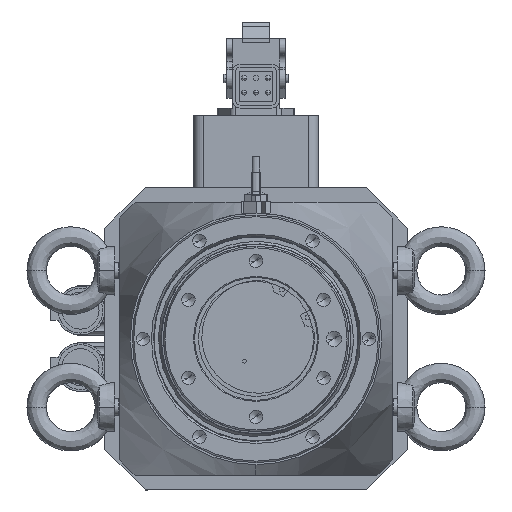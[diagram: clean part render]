
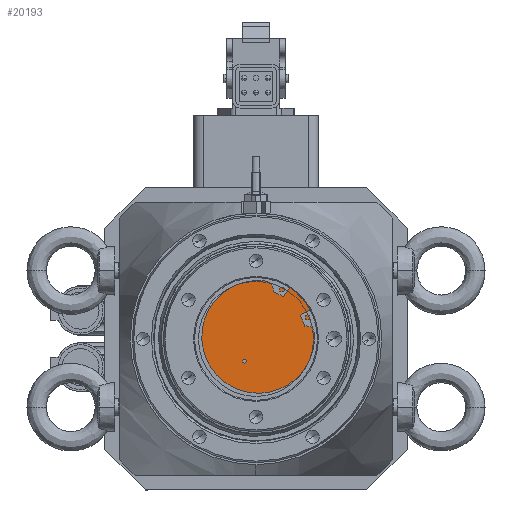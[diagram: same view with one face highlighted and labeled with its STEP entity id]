
A CAD part, front view. The second image highlights one B-rep face of the part: STEP entity #20193.
In plain terms, the highlighted planar face has unit normal (0, -1, 0).
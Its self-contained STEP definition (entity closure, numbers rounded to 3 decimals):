
#1101 = PLANE ( 'NONE',  #25578 ) ;
#2541 = CIRCLE ( 'NONE', #31256, 31.5 ) ;
#2802 = CARTESIAN_POINT ( 'NONE',  ( -70.273, -247.879, -75.425 ) ) ;
#3281 = ORIENTED_EDGE ( 'NONE', *, *, #39886, .F. ) ;
#3992 = CARTESIAN_POINT ( 'NONE',  ( -63.5, -247.879, -63.5 ) ) ;
#4532 = DIRECTION ( 'NONE',  ( 0.866, 0., 0.5 ) ) ;
#5123 = VERTEX_POINT ( 'NONE', #33120 ) ;
#6115 = VERTEX_POINT ( 'NONE', #29689 ) ;
#8212 = DIRECTION ( 'NONE',  ( 0., 1., 0. ) ) ;
#8728 = FACE_BOUND ( 'NONE', #11676, .T. ) ;
#9163 = EDGE_CURVE ( 'NONE', #6115, #13851, #11484, .T. ) ;
#9889 = CARTESIAN_POINT ( 'NONE',  ( -69.407, -247.879, -74.925 ) ) ;
#10842 = CIRCLE ( 'NONE', #16702, 1. ) ;
#11484 = CIRCLE ( 'NONE', #13871, 1. ) ;
#11676 = EDGE_LOOP ( 'NONE', ( #33970, #29968 ) ) ;
#13008 = DIRECTION ( 'NONE',  ( 0., 1., 0. ) ) ;
#13314 = VERTEX_POINT ( 'NONE', #34430 ) ;
#13670 = DIRECTION ( 'NONE',  ( 0., 1., 0. ) ) ;
#13851 = VERTEX_POINT ( 'NONE', #2802 ) ;
#13871 = AXIS2_PLACEMENT_3D ( 'NONE', #9889, #13008, #22728 ) ;
#13976 = EDGE_CURVE ( 'NONE', #13314, #5123, #34600, .T. ) ;
#14071 = DIRECTION ( 'NONE',  ( 0.866, 0., 0.5 ) ) ;
#14651 = CARTESIAN_POINT ( 'NONE',  ( -69.407, -247.879, -74.925 ) ) ;
#16276 = EDGE_CURVE ( 'NONE', #13851, #6115, #10842, .T. ) ;
#16702 = AXIS2_PLACEMENT_3D ( 'NONE', #14651, #36535, #36781 ) ;
#19598 = CARTESIAN_POINT ( 'NONE',  ( -63.5, -247.879, -63.5 ) ) ;
#20193 = ADVANCED_FACE ( 'NONE', ( #20324, #8728 ), #1101, .F. ) ;
#20324 = FACE_OUTER_BOUND ( 'NONE', #22481, .T. ) ;
#22481 = EDGE_LOOP ( 'NONE', ( #3281, #36797 ) ) ;
#22728 = DIRECTION ( 'NONE',  ( 0.866, 0., 0.5 ) ) ;
#25578 = AXIS2_PLACEMENT_3D ( 'NONE', #19598, #13670, #14071 ) ;
#25615 = DIRECTION ( 'NONE',  ( 0., 1., 0. ) ) ;
#26730 = CARTESIAN_POINT ( 'NONE',  ( -63.5, -247.879, -63.5 ) ) ;
#29689 = CARTESIAN_POINT ( 'NONE',  ( -68.541, -247.879, -74.425 ) ) ;
#29841 = DIRECTION ( 'NONE',  ( 0.866, 0., 0.5 ) ) ;
#29968 = ORIENTED_EDGE ( 'NONE', *, *, #9163, .T. ) ;
#31256 = AXIS2_PLACEMENT_3D ( 'NONE', #26730, #8212, #29841 ) ;
#33120 = CARTESIAN_POINT ( 'NONE',  ( -90.78, -247.879, -79.25 ) ) ;
#33970 = ORIENTED_EDGE ( 'NONE', *, *, #16276, .T. ) ;
#34226 = AXIS2_PLACEMENT_3D ( 'NONE', #3992, #25615, #4532 ) ;
#34430 = CARTESIAN_POINT ( 'NONE',  ( -36.22, -247.879, -47.75 ) ) ;
#34600 = CIRCLE ( 'NONE', #34226, 31.5 ) ;
#36535 = DIRECTION ( 'NONE',  ( 0., 1., 0. ) ) ;
#36781 = DIRECTION ( 'NONE',  ( 0.866, 0., 0.5 ) ) ;
#36797 = ORIENTED_EDGE ( 'NONE', *, *, #13976, .F. ) ;
#39886 = EDGE_CURVE ( 'NONE', #5123, #13314, #2541, .T. ) ;
